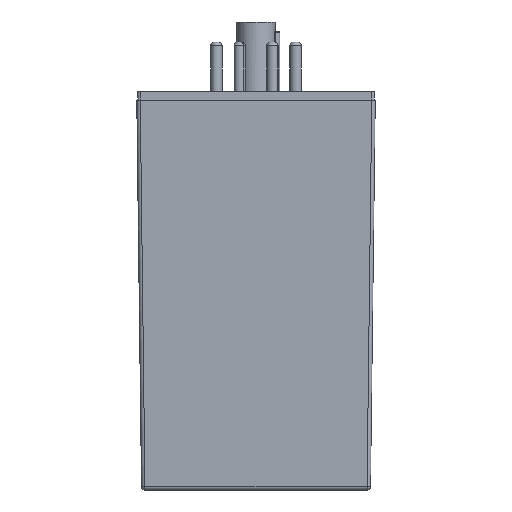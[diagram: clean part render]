
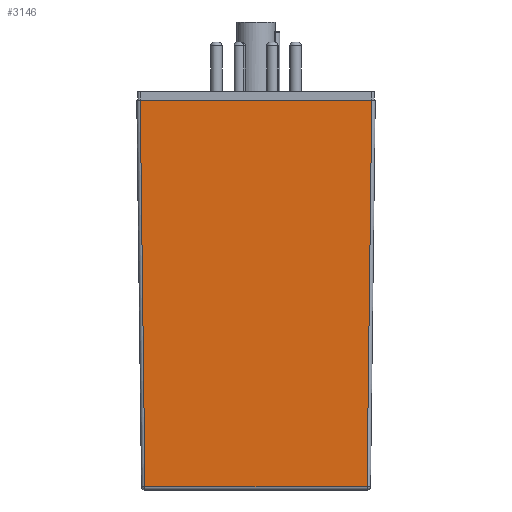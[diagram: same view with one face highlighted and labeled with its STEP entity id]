
A CAD part, front view. The second image highlights one B-rep face of the part: STEP entity #3146.
In plain terms, the highlighted planar face has unit normal (0, -1, -0.012).
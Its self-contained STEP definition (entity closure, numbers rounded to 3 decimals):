
#83 = ORIENTED_EDGE ( 'NONE', *, *, #7009, .T. ) ;
#84 = EDGE_CURVE ( 'NONE', #2389, #1131, #6717, .T. ) ;
#177 = VERTEX_POINT ( 'NONE', #268 ) ;
#268 = CARTESIAN_POINT ( 'NONE',  ( -22.446, -23.146, -78.109 ) ) ;
#272 = VERTEX_POINT ( 'NONE', #7514 ) ;
#505 = CARTESIAN_POINT ( 'NONE',  ( -23.4, -24.1, 0.009 ) ) ;
#1037 = ORIENTED_EDGE ( 'NONE', *, *, #3490, .T. ) ;
#1077 = CARTESIAN_POINT ( 'NONE',  ( -24.1, -24.1, 0. ) ) ;
#1098 = DIRECTION ( 'NONE',  ( 0., -1., -0.012 ) ) ;
#1131 = VERTEX_POINT ( 'NONE', #4649 ) ;
#1321 = VECTOR ( 'NONE', #7301, 1000. ) ;
#1397 = CARTESIAN_POINT ( 'NONE',  ( -23.4, -24.1, 0. ) ) ;
#1556 = VECTOR ( 'NONE', #4058, 1000. ) ;
#1829 = LINE ( 'NONE', #3141, #3230 ) ;
#2109 = FACE_OUTER_BOUND ( 'NONE', #6886, .T. ) ;
#2389 = VERTEX_POINT ( 'NONE', #1397 ) ;
#2420 = EDGE_CURVE ( 'NONE', #177, #272, #4466, .T. ) ;
#3141 = CARTESIAN_POINT ( 'NONE',  ( 23.393, -24.093, -0.58 ) ) ;
#3146 = ADVANCED_FACE ( 'NONE', ( #2109 ), #4054, .T. ) ;
#3230 = VECTOR ( 'NONE', #6674, 1000. ) ;
#3490 = EDGE_CURVE ( 'NONE', #2389, #177, #6283, .T. ) ;
#3582 = AXIS2_PLACEMENT_3D ( 'NONE', #1077, #1098, #5270 ) ;
#3780 = CARTESIAN_POINT ( 'NONE',  ( 23.137, -23.146, -78.109 ) ) ;
#4054 = PLANE ( 'NONE',  #3582 ) ;
#4058 = DIRECTION ( 'NONE',  ( 0.012, 0.012, -1. ) ) ;
#4257 = ORIENTED_EDGE ( 'NONE', *, *, #2420, .T. ) ;
#4466 = LINE ( 'NONE', #3780, #1321 ) ;
#4649 = CARTESIAN_POINT ( 'NONE',  ( 23.4, -24.1, 0. ) ) ;
#4968 = VECTOR ( 'NONE', #5252, 1000. ) ;
#5252 = DIRECTION ( 'NONE',  ( 1., 0., 0. ) ) ;
#5270 = DIRECTION ( 'NONE',  ( 0., 0.012, -1. ) ) ;
#5592 = ORIENTED_EDGE ( 'NONE', *, *, #84, .F. ) ;
#6283 = LINE ( 'NONE', #505, #1556 ) ;
#6437 = CARTESIAN_POINT ( 'NONE',  ( -24.1, -24.1, 0. ) ) ;
#6674 = DIRECTION ( 'NONE',  ( 0.012, -0.012, 1. ) ) ;
#6717 = LINE ( 'NONE', #6437, #4968 ) ;
#6886 = EDGE_LOOP ( 'NONE', ( #5592, #1037, #4257, #83 ) ) ;
#7009 = EDGE_CURVE ( 'NONE', #272, #1131, #1829, .T. ) ;
#7301 = DIRECTION ( 'NONE',  ( 1., 0., 0. ) ) ;
#7514 = CARTESIAN_POINT ( 'NONE',  ( 22.446, -23.146, -78.109 ) ) ;
